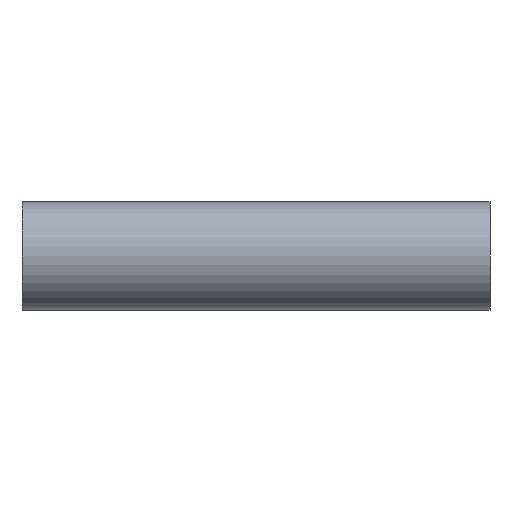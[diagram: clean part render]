
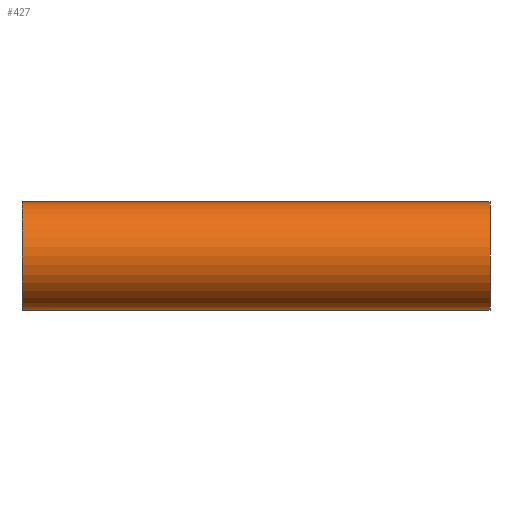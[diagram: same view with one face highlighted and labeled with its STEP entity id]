
A CAD part, front view. The second image highlights one B-rep face of the part: STEP entity #427.
In plain terms, the highlighted cylindrical face has radius 25.4 mm (diameter 50.8 mm), a partial arc.
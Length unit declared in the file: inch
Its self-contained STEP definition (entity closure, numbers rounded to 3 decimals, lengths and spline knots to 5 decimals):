
#13 = FACE_OUTER_BOUND ( 'NONE', #194, .T. ) ;
#18 = CARTESIAN_POINT ( 'NONE',  ( 7.125, 0., -1. ) ) ;
#23 = DIRECTION ( 'NONE',  ( 1., 0., 0. ) ) ;
#39 = VECTOR ( 'NONE', #95, 39.37008 ) ;
#54 = DIRECTION ( 'NONE',  ( 1., 0., 0. ) ) ;
#60 = EDGE_CURVE ( 'NONE', #217, #198, #425, .T. ) ;
#63 = DIRECTION ( 'NONE',  ( 1., 0., 0. ) ) ;
#67 = DIRECTION ( 'NONE',  ( 0., 0., -1. ) ) ;
#71 = EDGE_CURVE ( 'NONE', #175, #349, #391, .T. ) ;
#82 = CARTESIAN_POINT ( 'NONE',  ( 7.125, 0., 0. ) ) ;
#95 = DIRECTION ( 'NONE',  ( 1., 0., 0. ) ) ;
#101 = DIRECTION ( 'NONE',  ( 0., 0., -1. ) ) ;
#119 = CARTESIAN_POINT ( 'NONE',  ( -1.5, 0., 0. ) ) ;
#121 = AXIS2_PLACEMENT_3D ( 'NONE', #417, #373, #67 ) ;
#133 = CARTESIAN_POINT ( 'NONE',  ( -1.5, 0., 1. ) ) ;
#141 = DIRECTION ( 'NONE',  ( 1., 0., 0. ) ) ;
#175 = VERTEX_POINT ( 'NONE', #440 ) ;
#178 = EDGE_CURVE ( 'NONE', #349, #198, #360, .T. ) ;
#194 = EDGE_LOOP ( 'NONE', ( #364, #290, #239, #226, #444, #212 ) ) ;
#196 = EDGE_CURVE ( 'NONE', #461, #434, #355, .T. ) ;
#198 = VERTEX_POINT ( 'NONE', #18 ) ;
#212 = ORIENTED_EDGE ( 'NONE', *, *, #71, .F. ) ;
#217 = VERTEX_POINT ( 'NONE', #474 ) ;
#226 = ORIENTED_EDGE ( 'NONE', *, *, #60, .T. ) ;
#239 = ORIENTED_EDGE ( 'NONE', *, *, #410, .T. ) ;
#277 = DIRECTION ( 'NONE',  ( 0., 0., -1. ) ) ;
#284 = CYLINDRICAL_SURFACE ( 'NONE', #121, 1. ) ;
#290 = ORIENTED_EDGE ( 'NONE', *, *, #196, .T. ) ;
#294 = CARTESIAN_POINT ( 'NONE',  ( -1.5, 0., -1. ) ) ;
#309 = LINE ( 'NONE', #371, #39 ) ;
#313 = CARTESIAN_POINT ( 'NONE',  ( -1.5, 0., -1. ) ) ;
#324 = VECTOR ( 'NONE', #63, 39.37008 ) ;
#325 = DIRECTION ( 'NONE',  ( 1., 0., 0. ) ) ;
#327 = LINE ( 'NONE', #411, #324 ) ;
#338 = AXIS2_PLACEMENT_3D ( 'NONE', #119, #54, #101 ) ;
#349 = VERTEX_POINT ( 'NONE', #401 ) ;
#355 = CIRCLE ( 'NONE', #338, 1. ) ;
#360 = CIRCLE ( 'NONE', #419, 1. ) ;
#364 = ORIENTED_EDGE ( 'NONE', *, *, #366, .F. ) ;
#366 = EDGE_CURVE ( 'NONE', #461, #175, #327, .T. ) ;
#371 = CARTESIAN_POINT ( 'NONE',  ( -1.5, 0., -1. ) ) ;
#373 = DIRECTION ( 'NONE',  ( 1., 0., 0. ) ) ;
#379 = VECTOR ( 'NONE', #325, 39.37008 ) ;
#391 = LINE ( 'NONE', #133, #379 ) ;
#392 = VECTOR ( 'NONE', #141, 39.37008 ) ;
#401 = CARTESIAN_POINT ( 'NONE',  ( 7.125, 0., 1. ) ) ;
#410 = EDGE_CURVE ( 'NONE', #434, #217, #309, .T. ) ;
#411 = CARTESIAN_POINT ( 'NONE',  ( -1.5, 0., 1. ) ) ;
#417 = CARTESIAN_POINT ( 'NONE',  ( -1.5, 0., 0. ) ) ;
#419 = AXIS2_PLACEMENT_3D ( 'NONE', #82, #23, #277 ) ;
#422 = CARTESIAN_POINT ( 'NONE',  ( -1.5, 0., 1. ) ) ;
#425 = LINE ( 'NONE', #313, #392 ) ;
#427 = ADVANCED_FACE ( 'NONE', ( #13 ), #284, .T. ) ;
#434 = VERTEX_POINT ( 'NONE', #294 ) ;
#440 = CARTESIAN_POINT ( 'NONE',  ( 0., 0., 1. ) ) ;
#444 = ORIENTED_EDGE ( 'NONE', *, *, #178, .F. ) ;
#461 = VERTEX_POINT ( 'NONE', #422 ) ;
#474 = CARTESIAN_POINT ( 'NONE',  ( 0., 0., -1. ) ) ;
